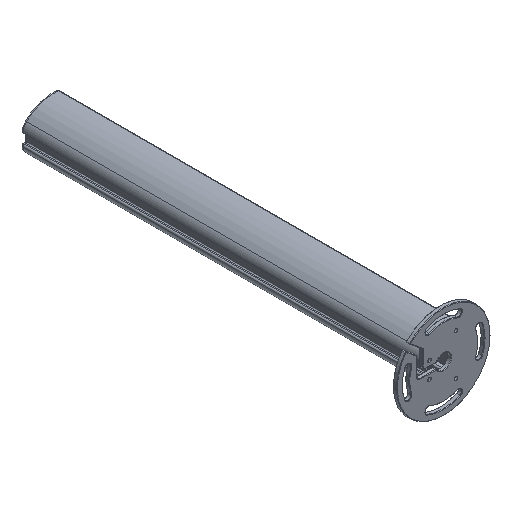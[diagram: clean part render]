
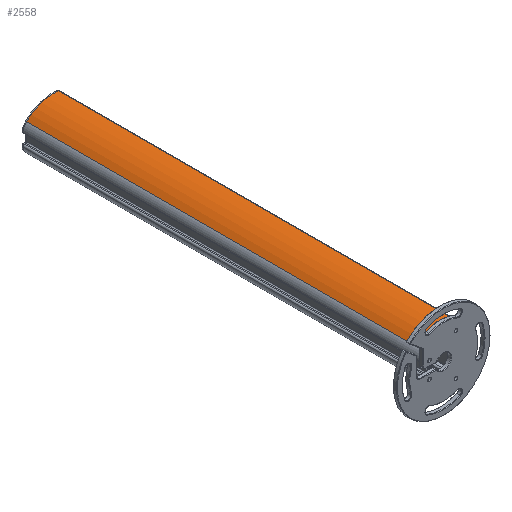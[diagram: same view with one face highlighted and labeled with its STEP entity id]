
A CAD part, isometric view. The second image highlights one B-rep face of the part: STEP entity #2558.
In plain terms, the highlighted cylindrical face has radius 79.059 mm (diameter 158.118 mm), a partial arc.
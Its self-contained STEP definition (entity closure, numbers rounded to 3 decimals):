
#72=CARTESIAN_POINT('',(24.886,-405.,-29.268));
#73=DIRECTION('',(0.,1.,0.));
#74=DIRECTION('',(-0.694,0.,0.72));
#75=AXIS2_PLACEMENT_3D('',#72,#73,#74);
#646=DIRECTION('',(0.,1.,0.));
#647=VECTOR('',#646,810.);
#648=CARTESIAN_POINT('',(35.448,-405.,49.083));
#649=LINE('',#648,#647);
#650=DIRECTION('',(0.,1.,0.));
#651=VECTOR('',#650,810.);
#652=CARTESIAN_POINT('',(-30.018,-405.,27.617));
#653=LINE('',#652,#651);
#1015=CARTESIAN_POINT('',(24.886,405.,-29.268));
#1016=DIRECTION('',(0.,1.,0.));
#1017=DIRECTION('',(-0.694,0.,0.72));
#1018=AXIS2_PLACEMENT_3D('',#1015,#1016,#1017);
#1116=CARTESIAN_POINT('',(-30.018,-405.,27.617));
#1117=VERTEX_POINT('',#1116);
#1118=CARTESIAN_POINT('',(35.448,-405.,49.083));
#1119=VERTEX_POINT('',#1118);
#1282=CARTESIAN_POINT('',(-30.018,405.,27.617));
#1283=VERTEX_POINT('',#1282);
#1284=CARTESIAN_POINT('',(35.448,405.,49.083));
#1285=VERTEX_POINT('',#1284);
#2545=CARTESIAN_POINT('',(24.886,-405.,-29.268));
#2546=DIRECTION('',(0.,1.,0.));
#2547=DIRECTION('',(1.,0.,0.));
#2548=AXIS2_PLACEMENT_3D('',#2545,#2546,#2547);
#2549=CYLINDRICAL_SURFACE('',#2548,79.059);
#2550=ORIENTED_EDGE('',*,*,#1453,.F.);
#2552=ORIENTED_EDGE('',*,*,#2551,.T.);
#2554=ORIENTED_EDGE('',*,*,#2553,.T.);
#2555=ORIENTED_EDGE('',*,*,#2537,.F.);
#2556=EDGE_LOOP('',(#2550,#2552,#2554,#2555));
#2557=FACE_OUTER_BOUND('',#2556,.F.);
#2558=ADVANCED_FACE('',(#2557),#2549,.T.);
#76=CIRCLE('',#75,79.059);
#1019=CIRCLE('',#1018,79.059);
#1453=EDGE_CURVE('',#1117,#1119,#76,.T.);
#2537=EDGE_CURVE('',#1119,#1285,#649,.T.);
#2551=EDGE_CURVE('',#1117,#1283,#653,.T.);
#2553=EDGE_CURVE('',#1283,#1285,#1019,.T.);
